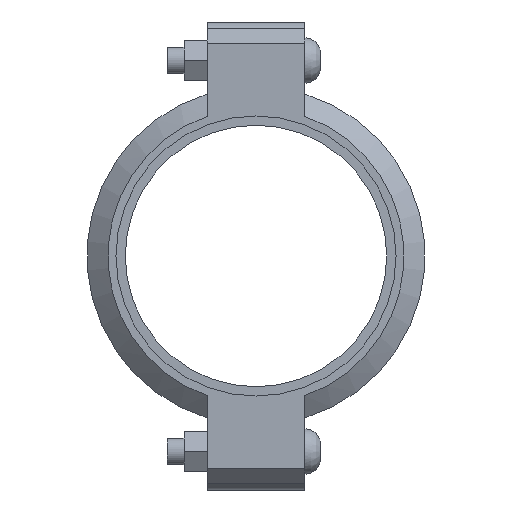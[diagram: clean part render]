
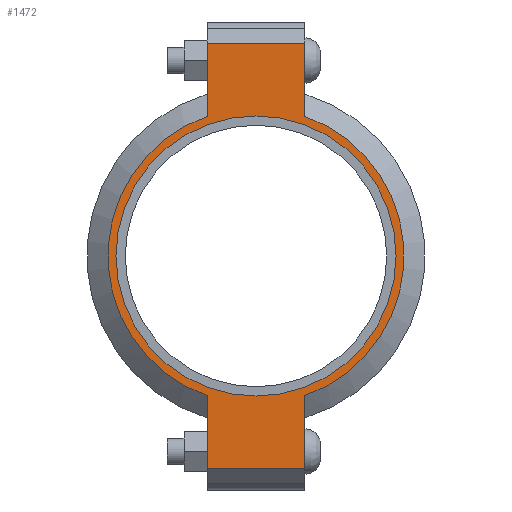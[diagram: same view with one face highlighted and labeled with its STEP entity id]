
A CAD part, left-side view. The second image highlights one B-rep face of the part: STEP entity #1472.
In plain terms, the highlighted planar face has unit normal (-1, 0, 0) as drawn and (0, 0, 1) by its records, which use the part's own axes.
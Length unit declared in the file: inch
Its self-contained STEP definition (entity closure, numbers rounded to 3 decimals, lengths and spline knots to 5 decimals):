
#152=LINE('',#2535,#243);
#160=LINE('',#2571,#251);
#167=LINE('',#2592,#258);
#176=LINE('',#2624,#267);
#177=LINE('',#2628,#268);
#178=LINE('',#2630,#269);
#243=VECTOR('',#2049,0.3937);
#251=VECTOR('',#2065,0.3937);
#258=VECTOR('',#2084,0.3937);
#267=VECTOR('',#2109,0.3937);
#268=VECTOR('',#2114,0.3937);
#269=VECTOR('',#2115,0.3937);
#321=FACE_BOUND('',#481,.T.);
#385=FACE_OUTER_BOUND('',#480,.T.);
#480=EDGE_LOOP('',(#1207,#1208,#1209,#1210,#1211,#1212,#1213,#1214));
#481=EDGE_LOOP('',(#1215));
#578=CIRCLE('',#1715,3.5);
#579=CIRCLE('',#1716,3.5);
#580=CIRCLE('',#1717,3.3125);
#683=VERTEX_POINT('',#2532);
#684=VERTEX_POINT('',#2534);
#695=VERTEX_POINT('',#2566);
#696=VERTEX_POINT('',#2570);
#703=VERTEX_POINT('',#2589);
#704=VERTEX_POINT('',#2591);
#714=VERTEX_POINT('',#2627);
#715=VERTEX_POINT('',#2629);
#716=VERTEX_POINT('',#2632);
#847=EDGE_CURVE('',#684,#683,#152,.T.);
#861=EDGE_CURVE('',#696,#695,#160,.T.);
#871=EDGE_CURVE('',#704,#703,#167,.T.);
#886=EDGE_CURVE('',#696,#683,#176,.T.);
#887=EDGE_CURVE('',#695,#704,#578,.T.);
#888=EDGE_CURVE('',#714,#703,#177,.T.);
#889=EDGE_CURVE('',#714,#715,#178,.T.);
#890=EDGE_CURVE('',#715,#684,#579,.T.);
#891=EDGE_CURVE('',#716,#716,#580,.T.);
#1207=ORIENTED_EDGE('',*,*,#886,.F.);
#1208=ORIENTED_EDGE('',*,*,#861,.T.);
#1209=ORIENTED_EDGE('',*,*,#887,.T.);
#1210=ORIENTED_EDGE('',*,*,#871,.T.);
#1211=ORIENTED_EDGE('',*,*,#888,.F.);
#1212=ORIENTED_EDGE('',*,*,#889,.T.);
#1213=ORIENTED_EDGE('',*,*,#890,.T.);
#1214=ORIENTED_EDGE('',*,*,#847,.T.);
#1215=ORIENTED_EDGE('',*,*,#891,.T.);
#1326=PLANE('',#1714);
#1472=ADVANCED_FACE('',(#385,#321),#1326,.T.);
#1714=AXIS2_PLACEMENT_3D('',#2625,#2110,#2111);
#1715=AXIS2_PLACEMENT_3D('',#2626,#2112,#2113);
#1716=AXIS2_PLACEMENT_3D('',#2631,#2116,#2117);
#1717=AXIS2_PLACEMENT_3D('',#2633,#2118,#2119);
#2049=DIRECTION('',(-1.,0.,0.));
#2065=DIRECTION('',(1.,0.,0.));
#2084=DIRECTION('',(1.,0.,0.));
#2109=DIRECTION('',(0.,1.,0.));
#2110=DIRECTION('center_axis',(0.,0.,1.));
#2111=DIRECTION('ref_axis',(1.,0.,0.));
#2112=DIRECTION('center_axis',(0.,0.,1.));
#2113=DIRECTION('ref_axis',(-1.,0.,0.));
#2114=DIRECTION('',(0.,-1.,0.));
#2115=DIRECTION('',(-1.,0.,0.));
#2116=DIRECTION('center_axis',(0.,0.,1.));
#2117=DIRECTION('ref_axis',(-1.,0.,0.));
#2118=DIRECTION('center_axis',(0.,0.,-1.));
#2119=DIRECTION('ref_axis',(-1.,0.,0.));
#2532=CARTESIAN_POINT('',(-5.035,1.156,1.065));
#2534=CARTESIAN_POINT('',(-3.30358,1.156,1.065));
#2535=CARTESIAN_POINT('',(-5.535,1.156,1.065));
#2566=CARTESIAN_POINT('',(-3.30358,-1.156,1.065));
#2570=CARTESIAN_POINT('',(-5.035,-1.156,1.065));
#2571=CARTESIAN_POINT('',(5.535,-1.156,1.065));
#2589=CARTESIAN_POINT('',(5.035,-1.156,1.065));
#2591=CARTESIAN_POINT('',(3.30358,-1.156,1.065));
#2592=CARTESIAN_POINT('',(5.535,-1.156,1.065));
#2624=CARTESIAN_POINT('',(-5.035,0.578,1.065));
#2625=CARTESIAN_POINT('Origin',(0.,0.,1.065));
#2626=CARTESIAN_POINT('Origin',(0.,0.,1.065));
#2627=CARTESIAN_POINT('',(5.035,1.156,1.065));
#2628=CARTESIAN_POINT('',(5.035,-0.578,1.065));
#2629=CARTESIAN_POINT('',(3.30358,1.156,1.065));
#2630=CARTESIAN_POINT('',(-5.535,1.156,1.065));
#2631=CARTESIAN_POINT('Origin',(0.,0.,1.065));
#2632=CARTESIAN_POINT('',(3.3125,0.,1.065));
#2633=CARTESIAN_POINT('Origin',(0.,0.,1.065));
